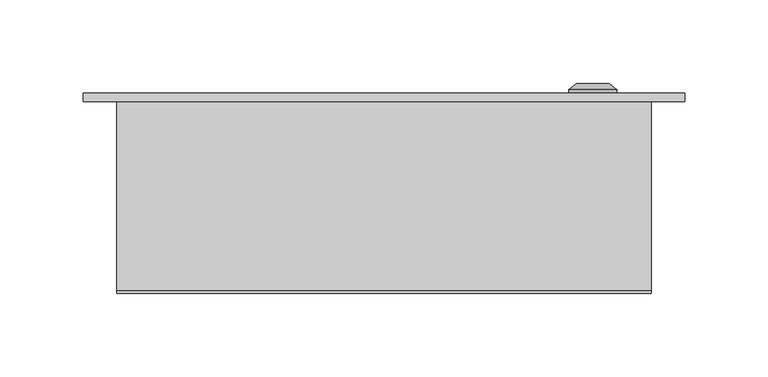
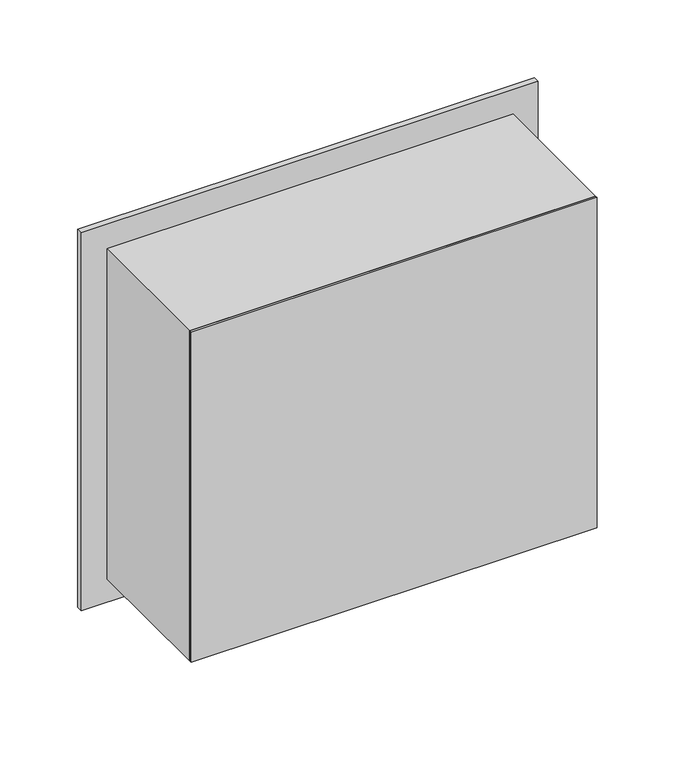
"""IFC4 building model written with IfcOpenShell, lengths in millimetres: proxy geometry, ЩРВ_9-12 : ЩРВ-09."""

from ifc_helpers import new_model, si_unit, frame, origin, origin_with_axes, place, context, project, spatial, polyline, circle_curve, outline, extrude, source, transform, mapped, element, save
from ifc_brep_helpers import plane_surface, cylinder_surface, revolved_surface, advanced_brep


def electrical_equipment_8861a685(model_context):
    return source(origin(), model_context, "Body", "SolidModel", [
        extrude(outline(polyline([(295.0, -180.0033905), (-20.0, -180.0033905), (-20.0, 179.9966095), (295.0, 179.9966095), (295.0, -180.0033905)]), holes=[polyline([(270.0, -155.0), (270.0, 155.0), (5.0, 155.0), (5.0, -155.0), (270.0, -155.0)])]), frame((0.0, 115.0, 0.0), z_axis=(0.0, 1.0, 0.0), x_axis=(0.0, 0.0, 1.0)), (0.0, 0.0, 1.0), 5.0),
        advanced_brep(
        [(110.669873, 120.0, 137.5), (139.330127, 120.0, 137.5), (125.0, 120.0, 137.5), (110.669873, 122.366592, 137.5), (139.330127, 122.366592, 137.5), (115.0, 126.0, 137.5), (135.0, 126.0, 137.5), (123.1080471, 126.0, 137.5), (126.8919529, 126.0, 137.5), (123.1080471, 124.9822294, 137.5), (126.8919529, 124.9822294, 137.5), (125.0, 124.9822294, 137.5)],
        [
            (0, 1, circle_curve(frame((125.0, 120.0, 137.5), z_axis=(0.0, -1.0, 0.0), x_axis=(1.0, 0.0, 0.0)), 14.330127)),
            (1, 2),
            (2, 0),
            (1, 0, circle_curve(frame((125.0, 120.0, 137.5), z_axis=(0.0, -1.0, 0.0), x_axis=(1.0, 0.0, 0.0)), 14.330127)),
            (3, 4, circle_curve(frame((125.0, 122.366592, 137.5), z_axis=(0.0, -1.0, 0.0), x_axis=(1.0, 0.0, 0.0)), 14.330127)),
            (4, 1),
            (0, 3),
            (4, 3, circle_curve(frame((125.0, 122.366592, 137.5), z_axis=(0.0, -1.0, 0.0), x_axis=(1.0, 0.0, 0.0)), 14.330127)),
            (5, 6, circle_curve(frame((125.0, 126.0, 137.5), z_axis=(0.0, -1.0, 0.0), x_axis=(1.0, 0.0, 0.0)), 10.0)),
            (6, 4),
            (3, 5),
            (6, 5, circle_curve(frame((125.0, 126.0, 137.5), z_axis=(0.0, -1.0, 0.0), x_axis=(1.0, 0.0, 0.0)), 10.0)),
            (7, 8, circle_curve(frame((125.0, 126.0, 137.5), z_axis=(0.0, -1.0, 0.0), x_axis=(1.0, 0.0, 0.0)), 1.8919529)),
            (8, 6),
            (5, 7),
            (8, 7, circle_curve(frame((125.0, 126.0, 137.5), z_axis=(0.0, -1.0, 0.0), x_axis=(1.0, 0.0, 0.0)), 1.8919529)),
            (9, 10, circle_curve(frame((125.0, 124.9822294, 137.5), z_axis=(0.0, -1.0, 0.0), x_axis=(1.0, 0.0, 0.0)), 1.8919529)),
            (10, 8),
            (7, 9),
            (10, 9, circle_curve(frame((125.0, 124.9822294, 137.5), z_axis=(0.0, -1.0, 0.0), x_axis=(1.0, 0.0, 0.0)), 1.8919529)),
            (11, 10),
            (9, 11),
        ],
        [
            plane_surface(frame((125.0, 120.0, 137.5), z_axis=(0.0, -1.0, 0.0), x_axis=(1.0, 0.0, 0.0))),
            cylinder_surface(frame((125.0, 133.1348851, 137.5), z_axis=(0.0, 1.0, 0.0), x_axis=(1.0, 0.0, 0.0)), 14.330127),
            revolved_surface(polyline([(139.330127, 122.366592, 137.5), (135.0, 126.0, 137.5)]), (125.0, 133.1348851, 137.5), (0.0, 1.0, 0.0)),
            plane_surface(frame((125.0, 126.0, 137.5), z_axis=(0.0, 1.0, 0.0), x_axis=(1.0, 0.0, 0.0))),
            revolved_surface(polyline([(126.8919529, 126.0, 137.5), (126.8919529, 124.9822294, 137.5)]), (125.0, 133.1348851, 137.5), (0.0, 1.0, 0.0)),
            plane_surface(frame((125.0, 124.9822294, 137.5), z_axis=(0.0, 1.0, 0.0), x_axis=(1.0, 0.0, 0.0))),
        ],
        [
            (0, [[1, 2, 3]]),
            (0, [[4, -3, -2]]),
            (1, [[5, 6, -1, 7]]),
            (1, [[8, -7, -4, -6]]),
            (2, [[9, 10, -5, 11]]),
            (2, [[12, -11, -8, -10]]),
            (3, [[13, 14, -9, 15]]),
            (3, [[16, -15, -12, -14]]),
            (4, [[17, 18, -13, 19]]),
            (4, [[20, -19, -16, -18]]),
            (5, [[21, -17, 22]]),
            (5, [[-22, -20, -21]]),
        ],
    ),
        extrude(outline(polyline([(154.0, 115.0), (-154.0, 115.0), (-154.0, 120.0), (154.0, 120.0), (154.0, 115.0)])), frame((0.0, 0.0, 6.0), z_axis=(0.0, 0.0, 1.0), x_axis=(1.0, 0.0, 0.0)), (0.0, 0.0, 1.0), 263.0),
        extrude(outline(polyline([(275.0, -160.0033905), (0.0, -160.0033905), (0.0, 159.9966095), (275.0, 159.9966095), (275.0, -160.0033905)]), holes=[polyline([(270.0, -155.0), (270.0, 155.0), (5.0, 155.0), (5.0, -155.0), (270.0, -155.0)])]), frame((0.0, 2.0, 0.0), z_axis=(0.0, 1.0, 0.0), x_axis=(0.0, 0.0, 1.0)), (0.0, 0.0, 1.0), 113.0),
        extrude(outline(polyline([(160.0, 0.0), (-160.0, 0.0), (-160.0, 2.0), (160.0, 2.0), (160.0, 0.0)])), origin_with_axes(), (0.0, 0.0, 1.0), 275.0),
    ])


if __name__ == "__main__":
    model = new_model("IFC4")
    model_context = context("Model", 3, world=origin())
    ifc_project = project(units=[si_unit("LENGTHUNIT", "METRE", prefix="MILLI")], contexts=[model_context])
    site = spatial("IfcSite", under=ifc_project)
    building = spatial("IfcBuilding", under=site)
    placement = place(None, origin())
    electrical_equipment_shape = electrical_equipment_8861a685(model_context)
    element("IfcBuildingElementProxy", 1, Name="ЩРВ_9-12 : ЩРВ-09", ObjectType="ЩРВ_9-12 : ЩРВ-09", at=placement, inside=building, context=model_context, shape_type="MappedRepresentation", body=[
        mapped(electrical_equipment_shape, transform((0.0, 0.0, 0.0), x_axis=(1.0, 0.0, 0.0), y_axis=(0.0, 1.0, 0.0), z_axis=(0.0, 0.0, 1.0))),
    ])
    save(model, "model.ifc")
